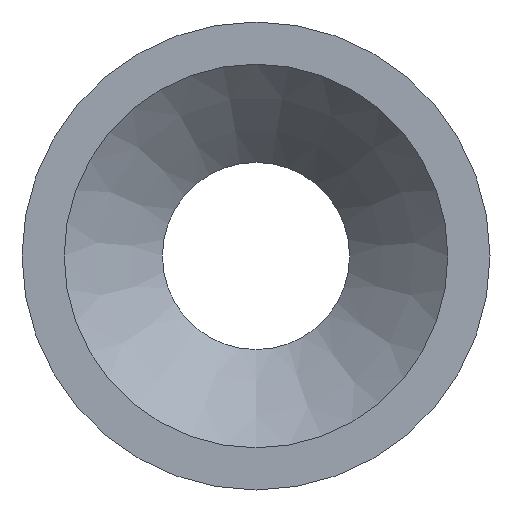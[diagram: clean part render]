
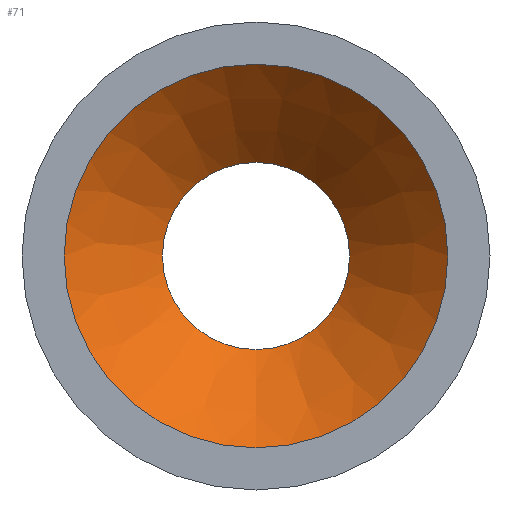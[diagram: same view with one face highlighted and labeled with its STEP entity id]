
A CAD part, left-side view. The second image highlights one B-rep face of the part: STEP entity #71.
In plain terms, the highlighted conical face has half-angle 45 degrees and reference radius 4.1 mm.
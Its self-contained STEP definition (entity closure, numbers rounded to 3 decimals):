
#22=CONICAL_SURFACE('',#91,4.1,0.785);
#25=ORIENTED_EDGE('',*,*,#35,.T.);
#26=ORIENTED_EDGE('',*,*,#33,.F.);
#33=EDGE_CURVE('',#38,#38,#43,.T.);
#35=EDGE_CURVE('',#40,#40,#45,.T.);
#38=VERTEX_POINT('',#123);
#40=VERTEX_POINT('',#128);
#43=CIRCLE('',#89,4.1);
#45=CIRCLE('',#92,2.);
#50=EDGE_LOOP('',(#25));
#51=EDGE_LOOP('',(#26));
#60=FACE_BOUND('',#50,.T.);
#61=FACE_BOUND('',#51,.T.);
#71=ADVANCED_FACE('',(#60,#61),#22,.F.);
#89=AXIS2_PLACEMENT_3D('',#122,#102,#103);
#91=AXIS2_PLACEMENT_3D('',#126,#106,#107);
#92=AXIS2_PLACEMENT_3D('',#127,#108,#109);
#102=DIRECTION('',(1.,0.,0.));
#103=DIRECTION('',(0.,0.,-1.));
#106=DIRECTION('',(-1.,0.,0.));
#107=DIRECTION('',(0.,0.,1.));
#108=DIRECTION('',(1.,0.,0.));
#109=DIRECTION('',(0.,0.,-1.));
#122=CARTESIAN_POINT('',(0.,0.,0.));
#123=CARTESIAN_POINT('',(0.,0.,-4.1));
#126=CARTESIAN_POINT('',(0.,0.,0.));
#127=CARTESIAN_POINT('',(2.1,0.,0.));
#128=CARTESIAN_POINT('',(2.1,0.,-2.));
